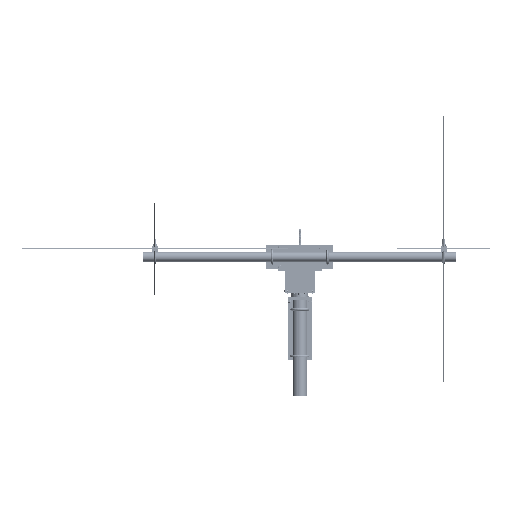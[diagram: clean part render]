
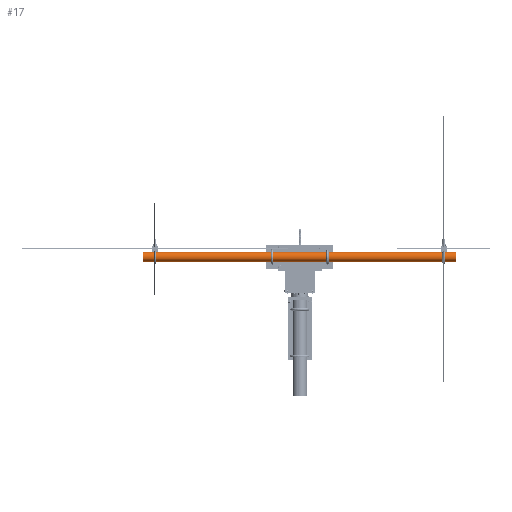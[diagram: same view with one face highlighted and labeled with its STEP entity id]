
A CAD part, front view. The second image highlights one B-rep face of the part: STEP entity #17.
In plain terms, the highlighted cylindrical face has radius 20 mm (diameter 40 mm), a full revolution.
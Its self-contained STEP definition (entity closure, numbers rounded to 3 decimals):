
#17 = ADVANCED_FACE('',(#18),#45,.T.);
#18 = FACE_BOUND('',#19,.T.);
#19 = EDGE_LOOP('',(#20,#29,#37,#44));
#20 = ORIENTED_EDGE('',*,*,#21,.F.);
#21 = EDGE_CURVE('',#22,#22,#24,.T.);
#22 = VERTEX_POINT('',#23);
#23 = CARTESIAN_POINT('',(648.,-112.,-0.005));
#24 = CIRCLE('',#25,20.);
#25 = AXIS2_PLACEMENT_3D('',#26,#27,#28);
#26 = CARTESIAN_POINT('',(648.,-132.,-0.005));
#27 = DIRECTION('',(1.,0.,0.));
#28 = DIRECTION('',(0.,1.,0.));
#29 = ORIENTED_EDGE('',*,*,#30,.F.);
#30 = EDGE_CURVE('',#31,#22,#33,.T.);
#31 = VERTEX_POINT('',#32);
#32 = CARTESIAN_POINT('',(-652.,-112.,-0.005));
#33 = LINE('',#34,#35);
#34 = CARTESIAN_POINT('',(-652.,-112.,-0.005));
#35 = VECTOR('',#36,1.);
#36 = DIRECTION('',(1.,0.,0.));
#37 = ORIENTED_EDGE('',*,*,#38,.T.);
#38 = EDGE_CURVE('',#31,#31,#39,.T.);
#39 = CIRCLE('',#40,20.);
#40 = AXIS2_PLACEMENT_3D('',#41,#42,#43);
#41 = CARTESIAN_POINT('',(-652.,-132.,-0.005));
#42 = DIRECTION('',(1.,0.,0.));
#43 = DIRECTION('',(0.,1.,0.));
#44 = ORIENTED_EDGE('',*,*,#30,.T.);
#45 = CYLINDRICAL_SURFACE('',#46,20.);
#46 = AXIS2_PLACEMENT_3D('',#47,#48,#49);
#47 = CARTESIAN_POINT('',(-652.,-132.,-0.005));
#48 = DIRECTION('',(1.,0.,0.));
#49 = DIRECTION('',(0.,1.,0.));
